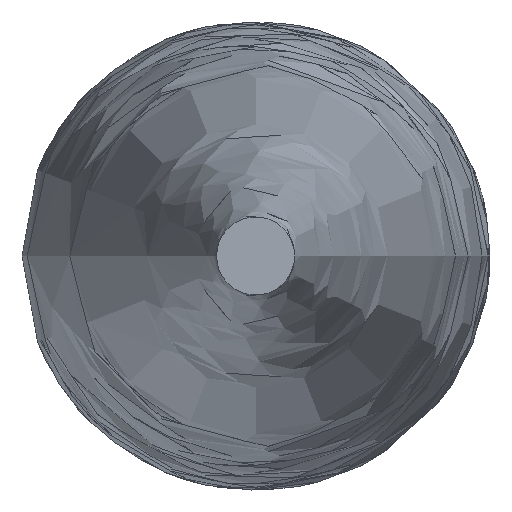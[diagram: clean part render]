
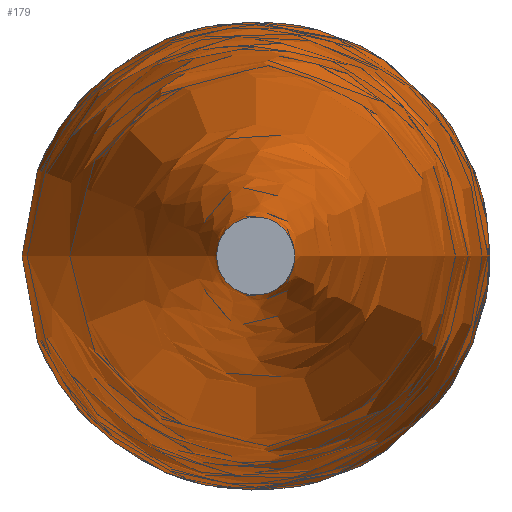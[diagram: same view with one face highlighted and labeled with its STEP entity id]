
A CAD part, left-side view. The second image highlights one B-rep face of the part: STEP entity #179.
In plain terms, the highlighted free-form (B-spline) face has degree [4, 2] with [11, 9] control points.
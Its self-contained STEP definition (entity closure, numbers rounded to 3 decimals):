
#44=CARTESIAN_POINT('',(20.,3.0,0.0));
#45=CARTESIAN_POINT('',(20.794,3.562,0.0));
#46=CARTESIAN_POINT('',(46.767,7.126,0.0));
#47=CARTESIAN_POINT('',(68.066,11.466,0.0));
#48=CARTESIAN_POINT('',(100.364,15.282,0.0));
#49=CARTESIAN_POINT('',(124.328,16.961,0.0));
#50=CARTESIAN_POINT('',(150.786,18.838,0.0));
#51=CARTESIAN_POINT('',(171.835,16.397,0.0));
#52=CARTESIAN_POINT('',(208.209,7.653,0.0));
#53=CARTESIAN_POINT('',(201.533,5.56,0.0));
#54=CARTESIAN_POINT('',(205.,0.0,0.0));
#55=CARTESIAN_POINT('',(20.,3.,-3.));
#56=CARTESIAN_POINT('',(20.794,3.562,-3.562));
#57=CARTESIAN_POINT('',(46.767,7.126,-7.126));
#58=CARTESIAN_POINT('',(68.066,11.466,-11.466));
#59=CARTESIAN_POINT('',(100.364,15.282,-15.282));
#60=CARTESIAN_POINT('',(124.328,16.961,-16.961));
#61=CARTESIAN_POINT('',(150.786,18.838,-18.838));
#62=CARTESIAN_POINT('',(171.835,16.397,-16.397));
#63=CARTESIAN_POINT('',(208.209,7.653,-7.653));
#64=CARTESIAN_POINT('',(201.533,5.56,-5.56));
#65=CARTESIAN_POINT('',(205.,0.,0.));
#66=CARTESIAN_POINT('',(20.,0.,-3.));
#67=CARTESIAN_POINT('',(20.794,0.,-3.562));
#68=CARTESIAN_POINT('',(46.767,0.,-7.126));
#69=CARTESIAN_POINT('',(68.066,0.,-11.466));
#70=CARTESIAN_POINT('',(100.364,0.,-15.282));
#71=CARTESIAN_POINT('',(124.328,0.,-16.961));
#72=CARTESIAN_POINT('',(150.786,0.,-18.838));
#73=CARTESIAN_POINT('',(171.835,0.,-16.397));
#74=CARTESIAN_POINT('',(208.209,0.,-7.653));
#75=CARTESIAN_POINT('',(201.533,0.,-5.56));
#76=CARTESIAN_POINT('',(205.,0.,0.));
#77=CARTESIAN_POINT('',(20.,-3.,-3.));
#78=CARTESIAN_POINT('',(20.794,-3.562,-3.562));
#79=CARTESIAN_POINT('',(46.767,-7.126,-7.126));
#80=CARTESIAN_POINT('',(68.066,-11.466,-11.466));
#81=CARTESIAN_POINT('',(100.364,-15.282,-15.282));
#82=CARTESIAN_POINT('',(124.328,-16.961,-16.961));
#83=CARTESIAN_POINT('',(150.786,-18.838,-18.838));
#84=CARTESIAN_POINT('',(171.835,-16.397,-16.397));
#85=CARTESIAN_POINT('',(208.209,-7.653,-7.653));
#86=CARTESIAN_POINT('',(201.533,-5.56,-5.56));
#87=CARTESIAN_POINT('',(205.,0.,0.));
#88=CARTESIAN_POINT('',(20.,-3.,0.0));
#89=CARTESIAN_POINT('',(20.794,-3.562,0.0));
#90=CARTESIAN_POINT('',(46.767,-7.126,0.0));
#91=CARTESIAN_POINT('',(68.066,-11.466,0.0));
#92=CARTESIAN_POINT('',(100.364,-15.282,0.0));
#93=CARTESIAN_POINT('',(124.328,-16.961,0.0));
#94=CARTESIAN_POINT('',(150.786,-18.838,0.0));
#95=CARTESIAN_POINT('',(171.835,-16.397,0.0));
#96=CARTESIAN_POINT('',(208.209,-7.653,0.0));
#97=CARTESIAN_POINT('',(201.533,-5.56,0.0));
#98=CARTESIAN_POINT('',(205.,0.,0.0));
#99=CARTESIAN_POINT('',(20.,-3.,3.));
#100=CARTESIAN_POINT('',(20.794,-3.562,3.562));
#101=CARTESIAN_POINT('',(46.767,-7.126,7.126));
#102=CARTESIAN_POINT('',(68.066,-11.466,11.466));
#103=CARTESIAN_POINT('',(100.364,-15.282,15.282));
#104=CARTESIAN_POINT('',(124.328,-16.961,16.961));
#105=CARTESIAN_POINT('',(150.786,-18.838,18.838));
#106=CARTESIAN_POINT('',(171.835,-16.397,16.397));
#107=CARTESIAN_POINT('',(208.209,-7.653,7.653));
#108=CARTESIAN_POINT('',(201.533,-5.56,5.56));
#109=CARTESIAN_POINT('',(205.,0.,0.));
#110=CARTESIAN_POINT('',(20.,0.,3.));
#111=CARTESIAN_POINT('',(20.794,0.,3.562));
#112=CARTESIAN_POINT('',(46.767,0.,7.126));
#113=CARTESIAN_POINT('',(68.066,0.,11.466));
#114=CARTESIAN_POINT('',(100.364,0.,15.282));
#115=CARTESIAN_POINT('',(124.328,0.,16.961));
#116=CARTESIAN_POINT('',(150.786,0.,18.838));
#117=CARTESIAN_POINT('',(171.835,0.,16.397));
#118=CARTESIAN_POINT('',(208.209,0.,7.653));
#119=CARTESIAN_POINT('',(201.533,0.,5.56));
#120=CARTESIAN_POINT('',(205.,0.,0.));
#121=CARTESIAN_POINT('',(20.,3.,3.));
#122=CARTESIAN_POINT('',(20.794,3.562,3.562));
#123=CARTESIAN_POINT('',(46.767,7.126,7.126));
#124=CARTESIAN_POINT('',(68.066,11.466,11.466));
#125=CARTESIAN_POINT('',(100.364,15.282,15.282));
#126=CARTESIAN_POINT('',(124.328,16.961,16.961));
#127=CARTESIAN_POINT('',(150.786,18.838,18.838));
#128=CARTESIAN_POINT('',(171.835,16.397,16.397));
#129=CARTESIAN_POINT('',(208.209,7.653,7.653));
#130=CARTESIAN_POINT('',(201.533,5.56,5.56));
#131=CARTESIAN_POINT('',(205.,0.,0.));
#132=CARTESIAN_POINT('',(20.,3.0,0.0));
#133=CARTESIAN_POINT('',(20.794,3.562,0.0));
#134=CARTESIAN_POINT('',(46.767,7.126,0.0));
#135=CARTESIAN_POINT('',(68.066,11.466,0.0));
#136=CARTESIAN_POINT('',(100.364,15.282,0.0));
#137=CARTESIAN_POINT('',(124.328,16.961,0.0));
#138=CARTESIAN_POINT('',(150.786,18.838,0.0));
#139=CARTESIAN_POINT('',(171.835,16.397,0.0));
#140=CARTESIAN_POINT('',(208.209,7.653,0.0));
#141=CARTESIAN_POINT('',(201.533,5.56,0.0));
#142=CARTESIAN_POINT('',(205.,0.0,0.0));
#150=(BOUNDED_SURFACE()B_SPLINE_SURFACE(4,2,((#44,#55,#66,#77,#88,#99,#110,#121,#132),(#45,#56,#67,#78,#89,#100,#111,#122,#133),(#46,#57,#68,#79,#90,#101,#112,#123,#134),(#47,#58,#69,#80,#91,#102,#113,#124,#135),(#48,#59,#70,#81,#92,#103,#114,#125,#136),(#49,#60,#71,#82,#93,#104,#115,#126,#137),(#50,#61,#72,#83,#94,#105,#116,#127,#138),(#51,#62,#73,#84,#95,#106,#117,#128,#139),(#52,#63,#74,#85,#96,#107,#118,#129,#140),(#53,#64,#75,#86,#97,#108,#119,#130,#141),(#54,#65,#76,#87,#98,#109,#120,#131,#142)),.UNSPECIFIED.,.F.,.T.,.U.)B_SPLINE_SURFACE_WITH_KNOTS((5,1,1,1,1,1,1,5),(3,2,2,2,3),(0.0,0.234,0.354,0.474,0.594,0.714,0.817,1.0),(0.0,1.571,3.142,4.712,6.283),.UNSPECIFIED.)GEOMETRIC_REPRESENTATION_ITEM()RATIONAL_B_SPLINE_SURFACE(((1.0,0.707,1.0,0.707,1.0,0.707,1.0,0.707,1.0),(1.0,0.707,1.0,0.707,1.0,0.707,1.0,0.707,1.0),(1.0,0.707,1.0,0.707,1.0,0.707,1.0,0.707,1.0),(1.0,0.707,1.0,0.707,1.0,0.707,1.0,0.707,1.0),(1.0,0.707,1.0,0.707,1.0,0.707,1.0,0.707,1.0),(1.0,0.707,1.0,0.707,1.0,0.707,1.0,0.707,1.0),(1.0,0.707,1.0,0.707,1.0,0.707,1.0,0.707,1.0),(1.0,0.707,1.0,0.707,1.0,0.707,1.0,0.707,1.0),(1.0,0.707,1.0,0.707,1.0,0.707,1.0,0.707,1.0),(1.0,0.707,1.0,0.707,1.0,0.707,1.0,0.707,1.0),(1.0,0.707,1.0,0.707,1.0,0.707,1.0,0.707,1.0)))REPRESENTATION_ITEM('')SURFACE());
#151=CARTESIAN_POINT('',(205.0,0.0,0.0));
#152=VERTEX_POINT('',#151);
#153=CARTESIAN_POINT('',(20.0,3.0,0.0));
#154=VERTEX_POINT('',#153);
#155=CARTESIAN_POINT('',(20.,3.0,0.0));
#156=CARTESIAN_POINT('',(20.794,3.562,0.0));
#157=CARTESIAN_POINT('',(46.767,7.126,0.0));
#158=CARTESIAN_POINT('',(68.066,11.466,0.0));
#159=CARTESIAN_POINT('',(100.364,15.282,0.0));
#160=CARTESIAN_POINT('',(124.328,16.961,0.0));
#161=CARTESIAN_POINT('',(150.786,18.838,0.0));
#162=CARTESIAN_POINT('',(171.835,16.397,0.0));
#163=CARTESIAN_POINT('',(208.209,7.653,0.0));
#164=CARTESIAN_POINT('',(201.533,5.56,0.0));
#165=CARTESIAN_POINT('',(205.,0.0,0.0));
#166=B_SPLINE_CURVE_WITH_KNOTS('',4,(#155,#156,#157,#158,#159,#160,#161,#162,#163,#164,#165),.UNSPECIFIED.,.F.,.U.,(5,1,1,1,1,1,1,5),(0.0,0.234,0.354,0.474,0.594,0.714,0.817,1.0),.UNSPECIFIED.);
#167=EDGE_CURVE('',#152,#154,#166,.F.);
#168=ORIENTED_EDGE('',*,*,#167,.T.);
#169=CARTESIAN_POINT('',(20.0,0.,0.0));
#170=DIRECTION('',(-1.0,0.0,0.0));
#171=DIRECTION('',(0.0,1.0,0.0));
#172=AXIS2_PLACEMENT_3D('',#169,#170,#171);
#173=CIRCLE('',#172,3.);
#174=EDGE_CURVE('',#154,#154,#173,.T.);
#175=ORIENTED_EDGE('',*,*,#174,.F.);
#176=ORIENTED_EDGE('',*,*,#167,.F.);
#177=EDGE_LOOP('',(#168,#175,#176));
#178=FACE_OUTER_BOUND('',#177,.T.);
#179=ADVANCED_FACE('',(#178),#150,.T.);
